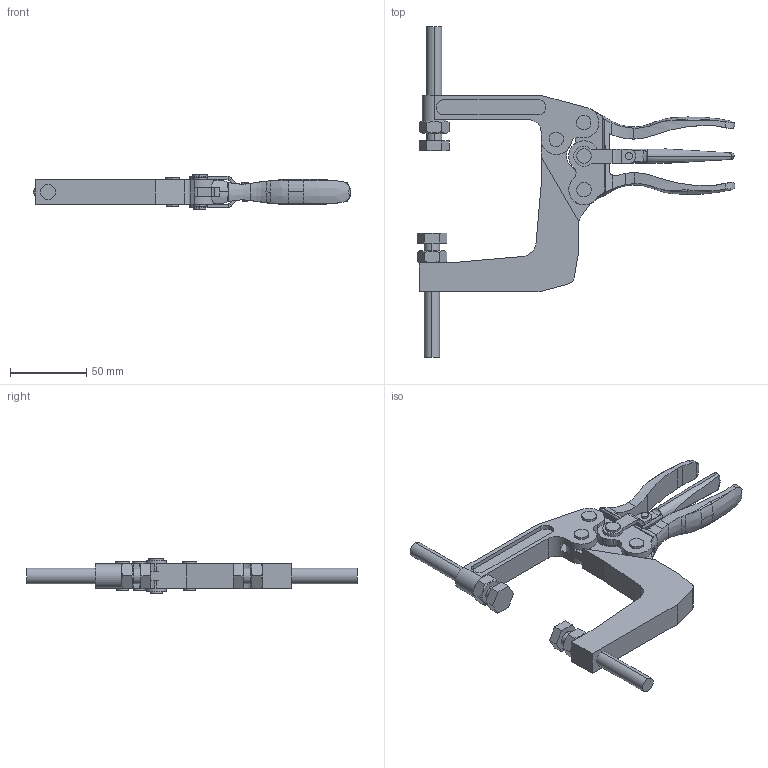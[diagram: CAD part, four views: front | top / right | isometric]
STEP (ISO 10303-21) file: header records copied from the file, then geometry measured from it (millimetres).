
FILE_DESCRIPTION (( 'STEP AP203' ), '1' );
FILE_NAME ('KFA-90.STEP', '2014-09-04T18:17:34', ( 'Ricardo' ), ( '' ), 'SwSTEP 2.0', 'SolidWorks 2013', '' );
FILE_SCHEMA (( 'CONFIG_CONTROL_DESIGN' ));
Length unit declared in the file: millimetre
Products named in the file (12): 01.30004; 01.30005; 06.50039; 03.30003; 06.50013; 03.10011; 06.50047; 18.30001; 12.50004; 18.10013; 11.50003; KFA-90
Assembly tree (16 placements, depth 2):
  KFA-90
    01.30004
    01.30005
    03.30003
    03.10011
    18.30001
    18.10013  x2
    06.50039  x3
    06.50013
    06.50047
    12.50004  x2
    11.50003  x2
Bounding box: 208.52 x 217 x 23.5 mm (x, y, z)
Volume: 126515.7 mm3; surface area: 57366.8 mm2
Topology: 17 solids, 21 shells, 400 faces, 1003 edges, 648 vertices
Faces by surface type: cylinder 196, plane 153, cone 26, bspline 25
Entity records: 13691 total; most frequent: CARTESIAN_POINT 4635, ORIENTED_EDGE 1644, DIRECTION 1522, EDGE_CURVE 825, AXIS2_PLACEMENT_3D 576, VERTEX_POINT 542, LINE 370, VECTOR 370
